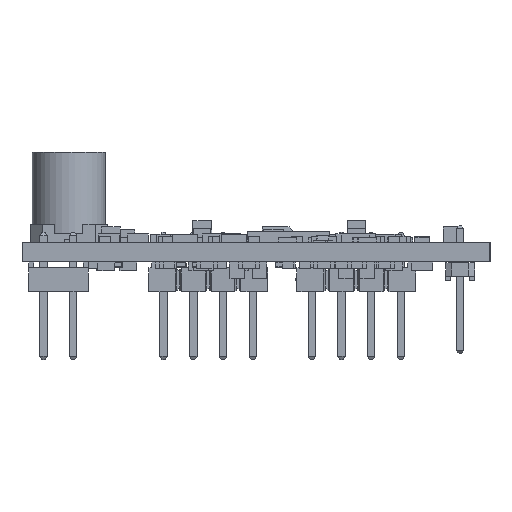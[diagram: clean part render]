
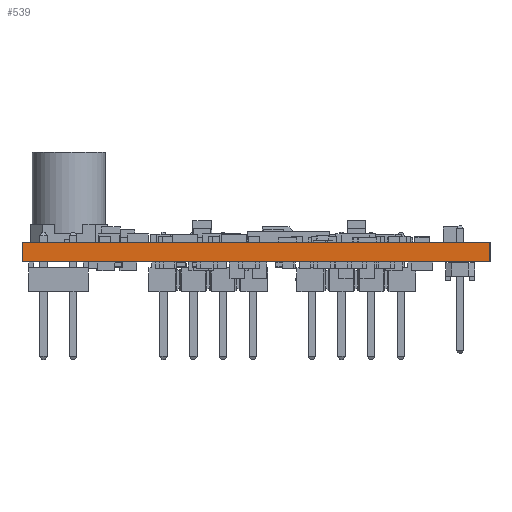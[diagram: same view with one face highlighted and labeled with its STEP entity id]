
A CAD part, left-side view. The second image highlights one B-rep face of the part: STEP entity #539.
In plain terms, the highlighted planar face has unit normal (-1, 0, 0).
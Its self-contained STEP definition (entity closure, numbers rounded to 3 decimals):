
#441 = EDGE_CURVE('',#442,#444,#446,.T.);
#442 = VERTEX_POINT('',#443);
#443 = CARTESIAN_POINT('',(0.,0.,0.));
#444 = VERTEX_POINT('',#445);
#445 = CARTESIAN_POINT('',(0.,0.,1.642));
#446 = LINE('',#447,#448);
#447 = CARTESIAN_POINT('',(0.,0.,0.));
#448 = VECTOR('',#449,1.);
#449 = DIRECTION('',(0.,0.,1.));
#514 = VERTEX_POINT('',#515);
#515 = CARTESIAN_POINT('',(0.,40.,1.642));
#521 = EDGE_CURVE('',#522,#514,#524,.T.);
#522 = VERTEX_POINT('',#523);
#523 = CARTESIAN_POINT('',(0.,40.,0.));
#524 = LINE('',#525,#526);
#525 = CARTESIAN_POINT('',(0.,40.,0.));
#526 = VECTOR('',#527,1.);
#527 = DIRECTION('',(0.,0.,1.));
#539 = ADVANCED_FACE('',(#540),#556,.F.);
#540 = FACE_BOUND('',#541,.F.);
#541 = EDGE_LOOP('',(#542,#543,#549,#550));
#542 = ORIENTED_EDGE('',*,*,#521,.T.);
#543 = ORIENTED_EDGE('',*,*,#544,.T.);
#544 = EDGE_CURVE('',#514,#444,#545,.T.);
#545 = LINE('',#546,#547);
#546 = CARTESIAN_POINT('',(0.,40.,1.642));
#547 = VECTOR('',#548,1.);
#548 = DIRECTION('',(0.,-1.,0.));
#549 = ORIENTED_EDGE('',*,*,#441,.F.);
#550 = ORIENTED_EDGE('',*,*,#551,.F.);
#551 = EDGE_CURVE('',#522,#442,#552,.T.);
#552 = LINE('',#553,#554);
#553 = CARTESIAN_POINT('',(0.,40.,0.));
#554 = VECTOR('',#555,1.);
#555 = DIRECTION('',(0.,-1.,0.));
#556 = PLANE('',#557);
#557 = AXIS2_PLACEMENT_3D('',#558,#559,#560);
#558 = CARTESIAN_POINT('',(0.,40.,0.));
#559 = DIRECTION('',(1.,0.,0.));
#560 = DIRECTION('',(0.,-1.,0.));
